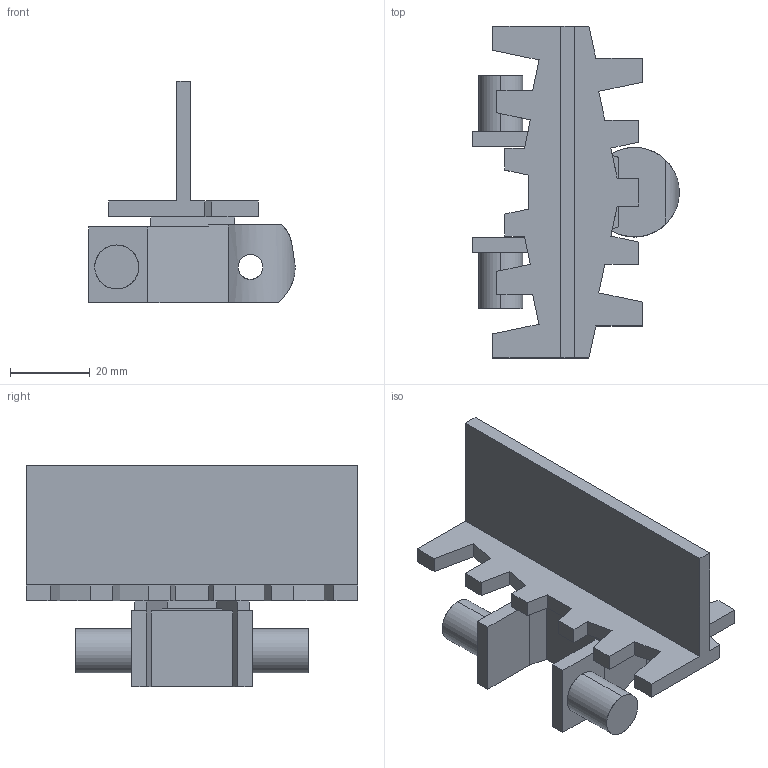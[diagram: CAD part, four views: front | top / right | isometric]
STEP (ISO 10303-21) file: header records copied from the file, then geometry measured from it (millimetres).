
FILE_DESCRIPTION (( 'STEP AP214' ), '1' );
FILE_NAME ('FMCT 5F30.step', '2017-04-04T13:34:36', ( '' ), ( '' ), 'SwSTEP 2.0', 'SolidWorks 2015', '' );
FILE_SCHEMA (( 'AUTOMOTIVE_DESIGN' ));
Length unit declared in the file: millimetre
Products named in the file (1): FMCT 5F30
Bounding box: 51.65 x 83 x 55.5 mm (x, y, z)
Surface area: 17359.5 mm2 (no closed solid volume)
Topology: 0 solids, 89 shells, 92 faces, 507 edges, 501 vertices
Faces by surface type: plane 82, cylinder 10
Entity records: 6477 total; most frequent: CARTESIAN_POINT 2723, DIRECTION 670, ORIENTED_EDGE 513, EDGE_CURVE 507, VERTEX_POINT 501, LINE 460, VECTOR 460, AXIS2_PLACEMENT_3D 105
